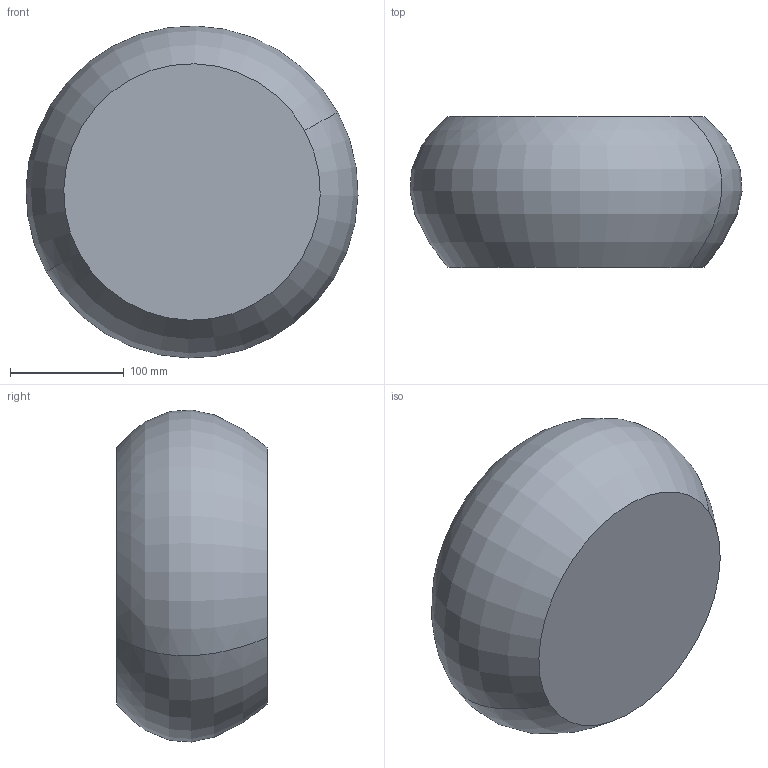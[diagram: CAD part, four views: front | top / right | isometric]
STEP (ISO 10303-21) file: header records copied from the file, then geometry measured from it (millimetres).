
FILE_DESCRIPTION(('CATIA V5 STEP Exchange'),'2;1');
FILE_NAME('C:\_Andres\UNIVERSIDAD\IQS\ASIGNATURAS\DAO\EXF\EXF-15161c\1original\Sánchez_Albiol_Ej10-decora_v23.stp','2016-03-04T22:24:14+00:00',('none'),('none'),'CATIA Version 5 Release 20 SP 1 (IN-10)','CATIA V5 STEP AP203','none');
FILE_SCHEMA(('CONFIG_CONTROL_DESIGN'));
Length unit declared in the file: millimetre
Products named in the file (1): Sánchez_Albiol_Ej10-decora_v23
Bounding box: 292.52 x 133 x 292.52 mm (x, y, z)
Volume: 7693957.7 mm3; surface area: 209330 mm2
Topology: 1 solids, 1 shells, 4 faces, 6 edges, 4 vertices
Faces by surface type: revolution 2, plane 2
Entity records: 166 total; most frequent: CARTESIAN_POINT 50, DIRECTION 12, ORIENTED_EDGE 12, AXIS2_PLACEMENT_3D 8, EDGE_CURVE 6, ADVANCED_FACE 4, B_SPLINE_CURVE_WITH_KNOTS 4, CC_DESIGN_PERSON_AND_ORGANIZATION_ASSIGNMENT 4
